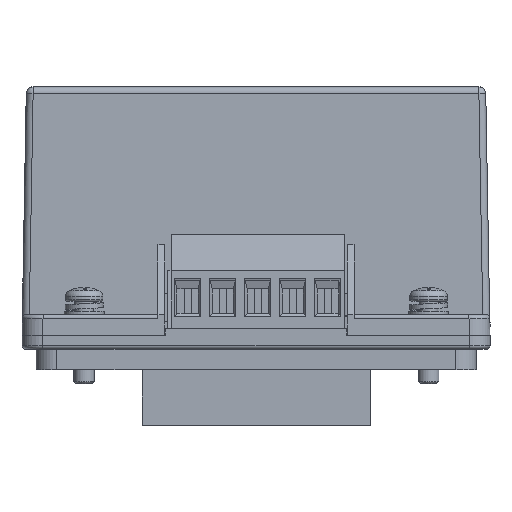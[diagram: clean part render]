
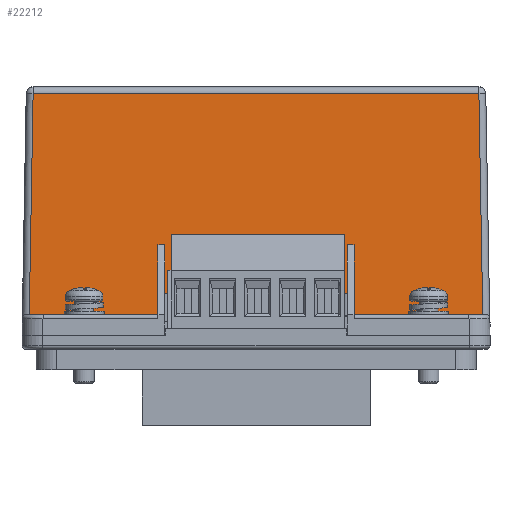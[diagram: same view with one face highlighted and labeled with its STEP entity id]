
A CAD part, front view. The second image highlights one B-rep face of the part: STEP entity #22212.
In plain terms, the highlighted planar face has unit normal (0, -1, 0.018).
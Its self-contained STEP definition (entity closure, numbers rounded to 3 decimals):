
#13375=CARTESIAN_POINT('',(-32.289,-45.441,35.017));
#13376=VERTEX_POINT('',#13375);
#13427=CARTESIAN_POINT('',(32.289,-45.441,35.017));
#13428=VERTEX_POINT('',#13427);
#13443=CARTESIAN_POINT('',(-32.289,-45.441,35.017));
#13444=DIRECTION('',(1.0,0.0,0.0));
#13445=VECTOR('',#13444,64.578);
#13446=LINE('',#13443,#13445);
#13447=EDGE_CURVE('',#13376,#13428,#13446,.T.);
#15475=CARTESIAN_POINT('',(32.848,-46.,3.));
#15476=VERTEX_POINT('',#15475);
#15484=CARTESIAN_POINT('',(14.2,-46.,3.));
#15485=VERTEX_POINT('',#15484);
#15486=CARTESIAN_POINT('',(32.848,-46.,3.));
#15487=DIRECTION('',(-1.0,0.0,0.0));
#15488=VECTOR('',#15487,18.648);
#15489=LINE('',#15486,#15488);
#15490=EDGE_CURVE('',#15476,#15485,#15489,.T.);
#20399=CARTESIAN_POINT('',(-13.2,-45.948,6.));
#20400=VERTEX_POINT('',#20399);
#20407=CARTESIAN_POINT('',(-13.2,-45.823,13.124));
#20408=VERTEX_POINT('',#20407);
#20409=CARTESIAN_POINT('',(-13.2,-45.823,13.124));
#20410=DIRECTION('',(0.0,-0.017,-1.));
#20411=VECTOR('',#20410,7.125);
#20412=LINE('',#20409,#20411);
#20413=EDGE_CURVE('',#20408,#20400,#20412,.T.);
#20660=CARTESIAN_POINT('',(13.2,-45.823,13.124));
#20661=VERTEX_POINT('',#20660);
#20668=CARTESIAN_POINT('',(13.2,-45.948,6.));
#20669=VERTEX_POINT('',#20668);
#20670=CARTESIAN_POINT('',(13.2,-45.948,6.));
#20671=DIRECTION('',(0.0,0.017,1.));
#20672=VECTOR('',#20671,7.125);
#20673=LINE('',#20670,#20672);
#20674=EDGE_CURVE('',#20669,#20661,#20673,.T.);
#20833=CARTESIAN_POINT('',(32.289,-45.441,35.017));
#20834=DIRECTION('',(0.017,-0.017,-1.));
#20835=VECTOR('',#20834,32.027);
#20836=LINE('',#20833,#20835);
#20837=EDGE_CURVE('',#13428,#15476,#20836,.T.);
#20912=CARTESIAN_POINT('',(-32.848,-46.,3.));
#20913=VERTEX_POINT('',#20912);
#20914=CARTESIAN_POINT('',(-32.848,-46.,3.));
#20915=DIRECTION('',(0.017,0.017,1.));
#20916=VECTOR('',#20915,32.027);
#20917=LINE('',#20914,#20916);
#20918=EDGE_CURVE('',#20913,#13376,#20917,.T.);
#21843=CARTESIAN_POINT('',(-13.2,-45.948,6.));
#21844=DIRECTION('',(1.0,0.0,0.0));
#21845=VECTOR('',#21844,26.4);
#21846=LINE('',#21843,#21845);
#21847=EDGE_CURVE('',#20400,#20669,#21846,.T.);
#22162=CARTESIAN_POINT('',(33.9,-46.,3.));
#22163=DIRECTION('',(0.0,-1.,0.017));
#22164=DIRECTION('',(0.0,-0.017,-1.));
#22165=AXIS2_PLACEMENT_3D('',#22162,#22163,#22164);
#22166=PLANE('',#22165);
#22167=ORIENTED_EDGE('',*,*,#20918,.F.);
#22168=CARTESIAN_POINT('',(-14.2,-46.,3.));
#22169=VERTEX_POINT('',#22168);
#22170=CARTESIAN_POINT('',(-14.2,-46.,3.));
#22171=DIRECTION('',(-1.0,0.0,0.0));
#22172=VECTOR('',#22171,18.648);
#22173=LINE('',#22170,#22172);
#22174=EDGE_CURVE('',#22169,#20913,#22173,.T.);
#22175=ORIENTED_EDGE('',*,*,#22174,.F.);
#22176=CARTESIAN_POINT('',(-14.2,-45.823,13.124));
#22177=VERTEX_POINT('',#22176);
#22178=CARTESIAN_POINT('',(-14.2,-46.,3.));
#22179=DIRECTION('',(0.0,0.017,1.));
#22180=VECTOR('',#22179,10.126);
#22181=LINE('',#22178,#22180);
#22182=EDGE_CURVE('',#22169,#22177,#22181,.T.);
#22183=ORIENTED_EDGE('',*,*,#22182,.T.);
#22184=CARTESIAN_POINT('',(-14.2,-45.823,13.124));
#22185=DIRECTION('',(1.0,0.0,0.0));
#22186=VECTOR('',#22185,1.);
#22187=LINE('',#22184,#22186);
#22188=EDGE_CURVE('',#22177,#20408,#22187,.T.);
#22189=ORIENTED_EDGE('',*,*,#22188,.T.);
#22190=ORIENTED_EDGE('',*,*,#20413,.T.);
#22191=ORIENTED_EDGE('',*,*,#21847,.T.);
#22192=ORIENTED_EDGE('',*,*,#20674,.T.);
#22193=CARTESIAN_POINT('',(14.2,-45.823,13.124));
#22194=VERTEX_POINT('',#22193);
#22195=CARTESIAN_POINT('',(13.2,-45.823,13.124));
#22196=DIRECTION('',(1.0,0.0,0.0));
#22197=VECTOR('',#22196,1.);
#22198=LINE('',#22195,#22197);
#22199=EDGE_CURVE('',#20661,#22194,#22198,.T.);
#22200=ORIENTED_EDGE('',*,*,#22199,.T.);
#22201=CARTESIAN_POINT('',(14.2,-45.823,13.124));
#22202=DIRECTION('',(0.0,-0.017,-1.));
#22203=VECTOR('',#22202,10.126);
#22204=LINE('',#22201,#22203);
#22205=EDGE_CURVE('',#22194,#15485,#22204,.T.);
#22206=ORIENTED_EDGE('',*,*,#22205,.T.);
#22207=ORIENTED_EDGE('',*,*,#15490,.F.);
#22208=ORIENTED_EDGE('',*,*,#20837,.F.);
#22209=ORIENTED_EDGE('',*,*,#13447,.F.);
#22210=EDGE_LOOP('',(#22167,#22175,#22183,#22189,#22190,#22191,#22192,#22200,#22206,#22207,#22208,#22209));
#22211=FACE_OUTER_BOUND('',#22210,.T.);
#22212=ADVANCED_FACE('',(#22211),#22166,.T.);
